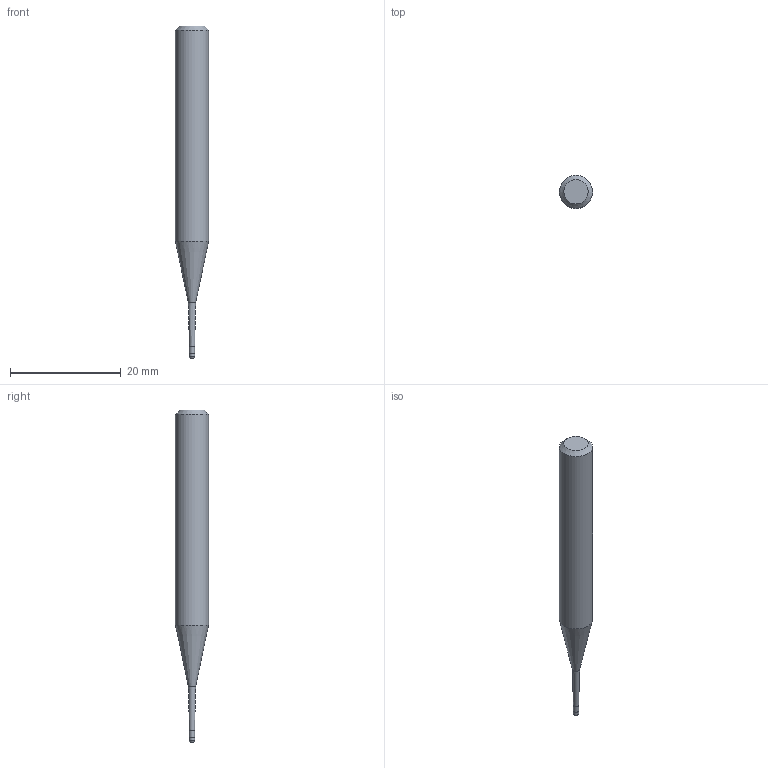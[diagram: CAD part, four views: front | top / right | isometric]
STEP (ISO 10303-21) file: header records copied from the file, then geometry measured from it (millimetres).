
FILE_DESCRIPTION((''),'2;1');
FILE_NAME('C:\Users\nsx150\AppData\Local\Temp\Mastercam 2021\YKS1SUSFZB\TEMP.step','2025-06-23T14:03:56',(''),(''),'STEP Write','Mastercam 2021 ... CNC Software, Inc.','');
FILE_SCHEMA(('AUTOMOTIVE_DESIGN'));
Length unit declared in the file: millimetre
Products named in the file (1): None
Bounding box: 6 x 6 x 60 mm (x, y, z)
Volume: 1236.8 mm3; surface area: 918.8 mm2
Topology: 2 solids, 2 shells, 11 faces, 16 edges, 9 vertices
Faces by surface type: plane 4, cylinder 3, cone 3, torus 1
Full cylindrical faces by diameter (mm): 0.955 x1, 1 x1, 6 x1
Entity records: 253 total; most frequent: DIRECTION 44, CARTESIAN_POINT 31, AXIS2_PLACEMENT_3D 22, ORIENTED_EDGE 18, EDGE_LOOP 18, STYLED_ITEM 14, ADVANCED_FACE 11, FACE_BOUND 11
